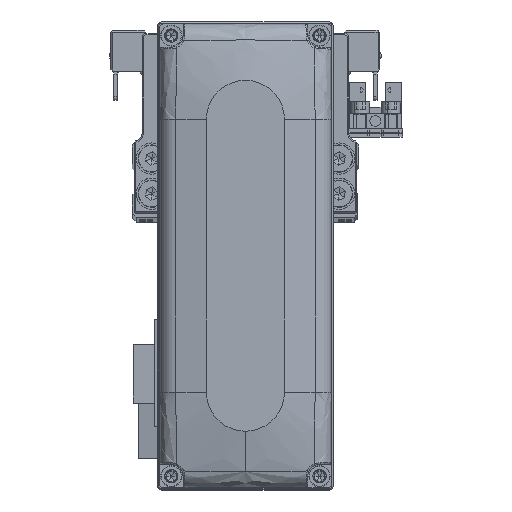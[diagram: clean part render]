
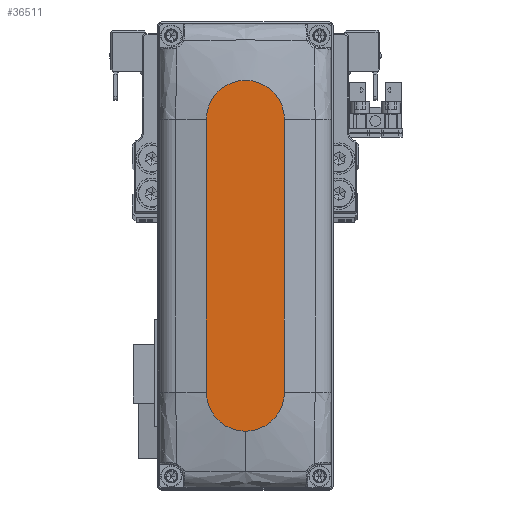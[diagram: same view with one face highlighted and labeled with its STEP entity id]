
A CAD part, top view. The second image highlights one B-rep face of the part: STEP entity #36511.
In plain terms, the highlighted planar face has unit normal (0, 0, 1).
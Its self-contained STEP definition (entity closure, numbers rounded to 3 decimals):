
#272 = CARTESIAN_POINT ( 'NONE',  ( 0., 0., 28. ) ) ;
#493 = ORIENTED_EDGE ( 'NONE', *, *, #32358, .T. ) ;
#1543 = EDGE_LOOP ( 'NONE', ( #3081, #34084, #493, #4824, #22563 ) ) ;
#2114 = LINE ( 'NONE', #14331, #18545 ) ;
#2610 = CIRCLE ( 'NONE', #24982, 10. ) ;
#3081 = ORIENTED_EDGE ( 'NONE', *, *, #22519, .T. ) ;
#4824 = ORIENTED_EDGE ( 'NONE', *, *, #12849, .T. ) ;
#5008 = CIRCLE ( 'NONE', #27374, 10. ) ;
#6167 = CARTESIAN_POINT ( 'NONE',  ( 35., 0., 28. ) ) ;
#10974 = DIRECTION ( 'NONE',  ( -1., 0., 0. ) ) ;
#11828 = DIRECTION ( 'NONE',  ( 1., 0., 0. ) ) ;
#11919 = VERTEX_POINT ( 'NONE', #29855 ) ;
#12463 = DIRECTION ( 'NONE',  ( 0., 0., 1. ) ) ;
#12849 = EDGE_CURVE ( 'NONE', #11919, #22232, #31025, .T. ) ;
#13764 = AXIS2_PLACEMENT_3D ( 'NONE', #6167, #18360, #30590 ) ;
#14331 = CARTESIAN_POINT ( 'NONE',  ( -35., -10., 28. ) ) ;
#14825 = CARTESIAN_POINT ( 'NONE',  ( -35., 0., 28. ) ) ;
#15489 = FACE_OUTER_BOUND ( 'NONE', #1543, .T. ) ;
#17661 = CARTESIAN_POINT ( 'NONE',  ( 45., 0., 28. ) ) ;
#18360 = DIRECTION ( 'NONE',  ( 0., 0., 1. ) ) ;
#18376 = EDGE_CURVE ( 'NONE', #22232, #18792, #5008, .T. ) ;
#18541 = VERTEX_POINT ( 'NONE', #34045 ) ;
#18545 = VECTOR ( 'NONE', #26523, 1000. ) ;
#18792 = VERTEX_POINT ( 'NONE', #36405 ) ;
#20800 = EDGE_CURVE ( 'NONE', #18541, #34558, #2610, .T. ) ;
#21561 = AXIS2_PLACEMENT_3D ( 'NONE', #272, #12463, #24668 ) ;
#22232 = VERTEX_POINT ( 'NONE', #17661 ) ;
#22519 = EDGE_CURVE ( 'NONE', #18792, #18541, #26172, .T. ) ;
#22563 = ORIENTED_EDGE ( 'NONE', *, *, #18376, .T. ) ;
#24668 = DIRECTION ( 'NONE',  ( 1., 0., 0. ) ) ;
#24982 = AXIS2_PLACEMENT_3D ( 'NONE', #14825, #27022, #39290 ) ;
#26172 = LINE ( 'NONE', #38438, #28947 ) ;
#26523 = DIRECTION ( 'NONE',  ( 1., 0., 0. ) ) ;
#27022 = DIRECTION ( 'NONE',  ( 0., 0., 1. ) ) ;
#27033 = CARTESIAN_POINT ( 'NONE',  ( 35., 0., 28. ) ) ;
#27374 = AXIS2_PLACEMENT_3D ( 'NONE', #27033, #39303, #11828 ) ;
#27696 = PLANE ( 'NONE',  #21561 ) ;
#28947 = VECTOR ( 'NONE', #10974, 1000. ) ;
#29855 = CARTESIAN_POINT ( 'NONE',  ( 35., -10., 28. ) ) ;
#30590 = DIRECTION ( 'NONE',  ( 1., 0., 0. ) ) ;
#31025 = CIRCLE ( 'NONE', #13764, 10. ) ;
#32358 = EDGE_CURVE ( 'NONE', #34558, #11919, #2114, .T. ) ;
#34045 = CARTESIAN_POINT ( 'NONE',  ( -35., 10., 28. ) ) ;
#34084 = ORIENTED_EDGE ( 'NONE', *, *, #20800, .T. ) ;
#34558 = VERTEX_POINT ( 'NONE', #35991 ) ;
#35991 = CARTESIAN_POINT ( 'NONE',  ( -35., -10., 28. ) ) ;
#36405 = CARTESIAN_POINT ( 'NONE',  ( 35., 10., 28. ) ) ;
#36511 = ADVANCED_FACE ( 'NONE', ( #15489 ), #27696, .T. ) ;
#38438 = CARTESIAN_POINT ( 'NONE',  ( -35., 10., 28. ) ) ;
#39290 = DIRECTION ( 'NONE',  ( 1., 0., 0. ) ) ;
#39303 = DIRECTION ( 'NONE',  ( 0., 0., 1. ) ) ;
